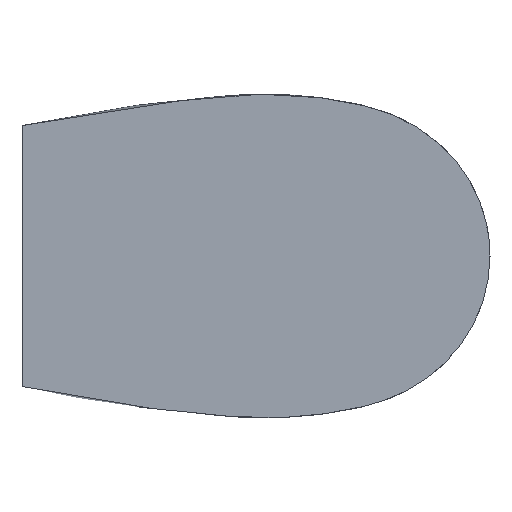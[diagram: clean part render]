
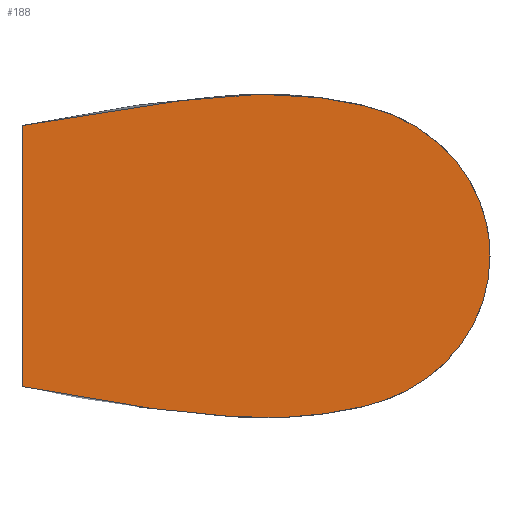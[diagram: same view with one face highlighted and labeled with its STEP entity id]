
A CAD part, left-side view. The second image highlights one B-rep face of the part: STEP entity #188.
In plain terms, the highlighted planar face has unit normal (-1, 0, 0).
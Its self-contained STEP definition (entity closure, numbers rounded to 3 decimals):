
#6=DIRECTION('',(0.,0.,1.));
#7=VECTOR('',#6,1.983);
#8=CARTESIAN_POINT('',(-9.,-0.3,-0.991));
#9=LINE('',#8,#7);
#10=CARTESIAN_POINT('',(-9.,-0.3,0.991));
#11=CARTESIAN_POINT('',(-9.,-0.446,1.025));
#12=CARTESIAN_POINT('',(-9.,-0.738,1.084));
#13=CARTESIAN_POINT('',(-9.,-1.106,1.139));
#14=CARTESIAN_POINT('',(-9.,-1.366,1.167));
#15=CARTESIAN_POINT('',(-9.,-1.516,1.181));
#16=CARTESIAN_POINT('',(-9.,-1.63,1.193));
#17=CARTESIAN_POINT('',(-9.,-1.745,1.207));
#18=CARTESIAN_POINT('',(-9.,-1.901,1.222));
#19=CARTESIAN_POINT('',(-9.,-2.115,1.232));
#20=CARTESIAN_POINT('',(-9.,-2.339,1.226));
#21=CARTESIAN_POINT('',(-9.,-2.531,1.208));
#22=CARTESIAN_POINT('',(-9.,-2.678,1.187));
#23=CARTESIAN_POINT('',(-9.,-2.825,1.16));
#24=CARTESIAN_POINT('',(-9.,-2.972,1.125));
#25=CARTESIAN_POINT('',(-9.,-3.116,1.075));
#26=CARTESIAN_POINT('',(-9.,-3.3,0.985));
#27=CARTESIAN_POINT('',(-9.,-3.509,0.833));
#28=CARTESIAN_POINT('',(-9.,-3.672,0.63));
#29=CARTESIAN_POINT('',(-9.,-3.766,0.447));
#30=CARTESIAN_POINT('',(-9.,-3.817,0.302));
#31=CARTESIAN_POINT('',(-9.,-3.848,0.152));
#32=CARTESIAN_POINT('',(-9.,-3.855,0.051));
#33=CARTESIAN_POINT('',(-9.,-3.855,0.));
#35=CARTESIAN_POINT('',(-9.,-3.855,0.));
#36=CARTESIAN_POINT('',(-9.,-3.855,-0.051));
#37=CARTESIAN_POINT('',(-9.,-3.848,-0.152));
#38=CARTESIAN_POINT('',(-9.,-3.817,-0.302));
#39=CARTESIAN_POINT('',(-9.,-3.766,-0.447));
#40=CARTESIAN_POINT('',(-9.,-3.672,-0.63));
#41=CARTESIAN_POINT('',(-9.,-3.509,-0.833));
#42=CARTESIAN_POINT('',(-9.,-3.3,-0.985));
#43=CARTESIAN_POINT('',(-9.,-3.116,-1.075));
#44=CARTESIAN_POINT('',(-9.,-2.972,-1.125));
#45=CARTESIAN_POINT('',(-9.,-2.825,-1.16));
#46=CARTESIAN_POINT('',(-9.,-2.678,-1.187));
#47=CARTESIAN_POINT('',(-9.,-2.531,-1.208));
#48=CARTESIAN_POINT('',(-9.,-2.339,-1.226));
#49=CARTESIAN_POINT('',(-9.,-2.115,-1.232));
#50=CARTESIAN_POINT('',(-9.,-1.901,-1.222));
#51=CARTESIAN_POINT('',(-9.,-1.745,-1.207));
#52=CARTESIAN_POINT('',(-9.,-1.63,-1.193));
#53=CARTESIAN_POINT('',(-9.,-1.516,-1.181));
#54=CARTESIAN_POINT('',(-9.,-1.366,-1.167));
#55=CARTESIAN_POINT('',(-9.,-1.106,-1.139));
#56=CARTESIAN_POINT('',(-9.,-0.738,-1.084));
#57=CARTESIAN_POINT('',(-9.,-0.446,-1.025));
#58=CARTESIAN_POINT('',(-9.,-0.3,-0.991));
#153=CARTESIAN_POINT('',(-9.,-0.3,-0.991));
#154=CARTESIAN_POINT('',(-9.,-0.3,0.991));
#155=VERTEX_POINT('',#153);
#156=VERTEX_POINT('',#154);
#157=VERTEX_POINT('',#35);
#176=CARTESIAN_POINT('',(-9.,0.,0.));
#177=DIRECTION('',(1.,0.,0.));
#178=DIRECTION('',(0.,0.,-1.));
#179=AXIS2_PLACEMENT_3D('',#176,#177,#178);
#180=PLANE('',#179);
#181=ORIENTED_EDGE('',*,*,#163,.T.);
#183=ORIENTED_EDGE('',*,*,#182,.T.);
#185=ORIENTED_EDGE('',*,*,#184,.T.);
#186=EDGE_LOOP('',(#181,#183,#185));
#187=FACE_OUTER_BOUND('',#186,.F.);
#188=ADVANCED_FACE('',(#187),#180,.F.);
#34=B_SPLINE_CURVE_WITH_KNOTS('',3,(#10,#11,#12,#13,#14,#15,#16,#17,#18,#19,#20,
#21,#22,#23,#24,#25,#26,#27,#28,#29,#30,#31,#32,#33),.UNSPECIFIED.,.F.,.F.,(4,1,
1,1,1,1,1,1,1,1,1,1,1,1,1,1,1,1,1,1,1,4),(0.,0.106,
0.211,0.264,0.291,0.318,
0.345,0.373,0.43,0.497,
0.532,0.567,0.602,0.638,
0.674,0.71,0.783,0.855,
0.892,0.928,0.964,1.),.UNSPECIFIED.);
#59=B_SPLINE_CURVE_WITH_KNOTS('',3,(#35,#36,#37,#38,#39,#40,#41,#42,#43,#44,#45,
#46,#47,#48,#49,#50,#51,#52,#53,#54,#55,#56,#57,#58),.UNSPECIFIED.,.F.,.F.,(4,1,
1,1,1,1,1,1,1,1,1,1,1,1,1,1,1,1,1,1,1,4),(0.,0.036,
0.072,0.108,0.145,0.217,
0.29,0.326,0.362,0.398,
0.433,0.468,0.503,0.57,
0.627,0.655,0.682,0.709,
0.736,0.789,0.894,1.),.UNSPECIFIED.);
#163=EDGE_CURVE('',#155,#156,#9,.T.);
#182=EDGE_CURVE('',#156,#157,#34,.T.);
#184=EDGE_CURVE('',#157,#155,#59,.T.);
